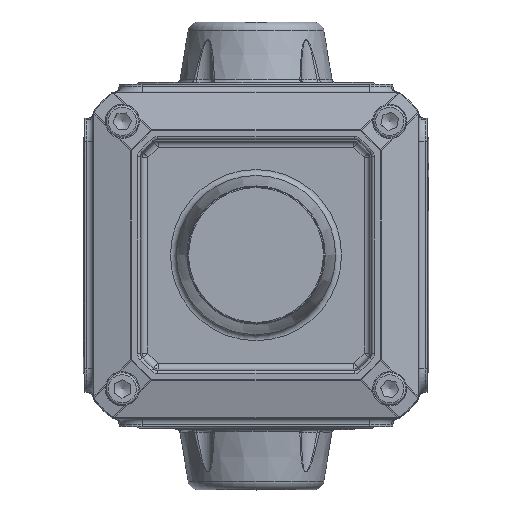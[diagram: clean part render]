
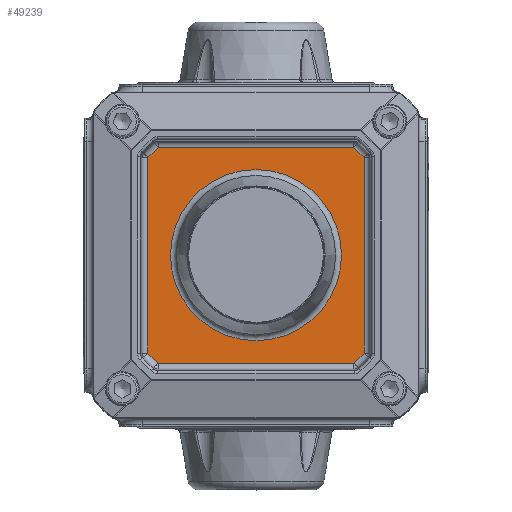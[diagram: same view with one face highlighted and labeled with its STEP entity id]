
A CAD part, top view. The second image highlights one B-rep face of the part: STEP entity #49239.
In plain terms, the highlighted planar face has unit normal (0, 0, 1).
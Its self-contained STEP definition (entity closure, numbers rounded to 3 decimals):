
#1900=FACE_BOUND('',#14485,.T.);
#2204=CIRCLE('',#52446,42.517);
#5014=LINE('',#72269,#7854);
#5016=LINE('',#72279,#7856);
#5018=LINE('',#72289,#7858);
#5020=LINE('',#72299,#7860);
#5022=LINE('',#72306,#7862);
#5023=LINE('',#72312,#7863);
#5024=LINE('',#72318,#7864);
#5025=LINE('',#72320,#7865);
#7854=VECTOR('',#58075,10.);
#7856=VECTOR('',#58087,10.);
#7858=VECTOR('',#58099,10.);
#7860=VECTOR('',#58111,10.);
#7862=VECTOR('',#58121,10.);
#7863=VECTOR('',#58130,10.);
#7864=VECTOR('',#58139,10.);
#7865=VECTOR('',#58142,10.);
#10531=PLANE('',#52445);
#11466=FACE_OUTER_BOUND('',#14484,.T.);
#14484=EDGE_LOOP('',(#31972,#31973,#31974,#31975,#31976,#31977,#31978,#31979));
#14485=EDGE_LOOP('',(#31980));
#19580=VERTEX_POINT('',#72259);
#19581=VERTEX_POINT('',#72263);
#19583=VERTEX_POINT('',#72271);
#19586=VERTEX_POINT('',#72281);
#19589=VERTEX_POINT('',#72291);
#19592=VERTEX_POINT('',#72301);
#19593=VERTEX_POINT('',#72308);
#19594=VERTEX_POINT('',#72314);
#19595=VERTEX_POINT('',#72322);
#24184=EDGE_CURVE('',#19580,#19581,#5014,.T.);
#24189=EDGE_CURVE('',#19581,#19583,#5016,.T.);
#24194=EDGE_CURVE('',#19583,#19586,#5018,.T.);
#24199=EDGE_CURVE('',#19586,#19589,#5020,.T.);
#24203=EDGE_CURVE('',#19589,#19592,#5022,.T.);
#24206=EDGE_CURVE('',#19592,#19593,#5023,.T.);
#24209=EDGE_CURVE('',#19593,#19594,#5024,.T.);
#24210=EDGE_CURVE('',#19594,#19580,#5025,.T.);
#24211=EDGE_CURVE('',#19595,#19595,#2204,.T.);
#31972=ORIENTED_EDGE('',*,*,#24210,.F.);
#31973=ORIENTED_EDGE('',*,*,#24209,.F.);
#31974=ORIENTED_EDGE('',*,*,#24206,.F.);
#31975=ORIENTED_EDGE('',*,*,#24203,.F.);
#31976=ORIENTED_EDGE('',*,*,#24199,.F.);
#31977=ORIENTED_EDGE('',*,*,#24194,.F.);
#31978=ORIENTED_EDGE('',*,*,#24189,.F.);
#31979=ORIENTED_EDGE('',*,*,#24184,.F.);
#31980=ORIENTED_EDGE('',*,*,#24211,.F.);
#49239=ADVANCED_FACE('',(#11466,#1900),#10531,.T.);
#52445=AXIS2_PLACEMENT_3D('',#72321,#58143,#58144);
#52446=AXIS2_PLACEMENT_3D('',#72323,#58145,#58146);
#58075=DIRECTION('',(-0.707,-0.707,0.));
#58087=DIRECTION('',(-1.,0.,0.));
#58099=DIRECTION('',(-0.707,0.707,0.));
#58111=DIRECTION('',(0.,1.,0.));
#58121=DIRECTION('',(0.707,0.707,0.));
#58130=DIRECTION('',(1.,0.,0.));
#58139=DIRECTION('',(0.707,-0.707,0.));
#58142=DIRECTION('',(0.,-1.,0.));
#58143=DIRECTION('center_axis',(0.,0.,
1.));
#58144=DIRECTION('ref_axis',(1.,0.,0.));
#58145=DIRECTION('center_axis',(0.,0.,
1.));
#58146=DIRECTION('ref_axis',(-1.,0.,0.));
#72259=CARTESIAN_POINT('',(53.701,-48.661,156.5));
#72263=CARTESIAN_POINT('',(48.661,-53.701,156.5));
#72269=CARTESIAN_POINT('',(49.365,-52.997,156.5));
#72271=CARTESIAN_POINT('',(-48.661,-53.701,156.5));
#72279=CARTESIAN_POINT('',(-25.117,-53.701,156.5));
#72281=CARTESIAN_POINT('',(-53.701,-48.661,156.5));
#72289=CARTESIAN_POINT('',(-52.997,-49.365,156.5));
#72291=CARTESIAN_POINT('',(-53.701,48.661,156.5));
#72299=CARTESIAN_POINT('',(-53.701,25.117,156.5));
#72301=CARTESIAN_POINT('',(-48.661,53.701,156.5));
#72306=CARTESIAN_POINT('',(-49.365,52.997,156.5));
#72308=CARTESIAN_POINT('',(48.661,53.701,156.5));
#72312=CARTESIAN_POINT('',(25.117,53.701,156.5));
#72314=CARTESIAN_POINT('',(53.701,48.661,156.5));
#72318=CARTESIAN_POINT('',(52.997,49.365,156.5));
#72320=CARTESIAN_POINT('',(53.701,-25.117,156.5));
#72321=CARTESIAN_POINT('Origin',(0.,0.,
156.5));
#72322=CARTESIAN_POINT('',(42.517,0.,156.5));
#72323=CARTESIAN_POINT('Origin',(0.,0.,
156.5));
